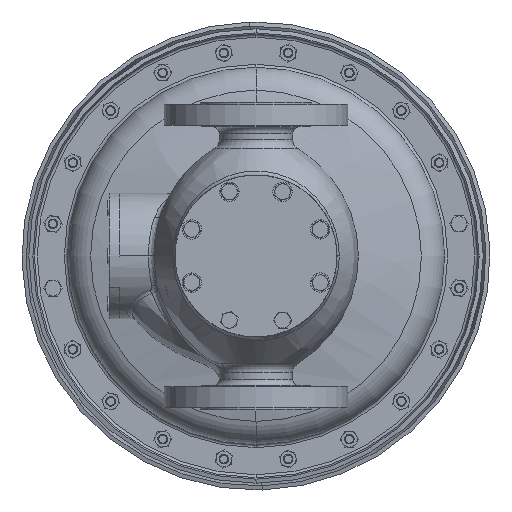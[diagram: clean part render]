
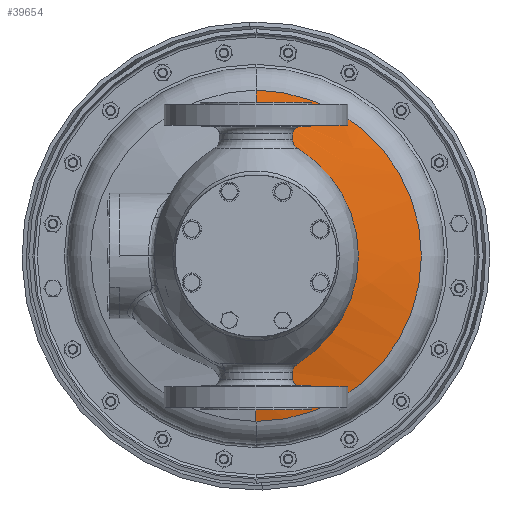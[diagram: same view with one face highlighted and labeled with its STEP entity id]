
A CAD part, front view. The second image highlights one B-rep face of the part: STEP entity #39654.
In plain terms, the highlighted spherical face has radius 553.5 mm.
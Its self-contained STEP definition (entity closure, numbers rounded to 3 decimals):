
#2181=CARTESIAN_POINT('',(0.,157.524,0.));
#2182=DIRECTION('',(0.,1.,0.));
#2183=DIRECTION('',(0.,0.,1.));
#2184=AXIS2_PLACEMENT_3D('',#2181,#2182,#2183);
#2768=CARTESIAN_POINT('',(0.,163.501,106.45));
#2769=CARTESIAN_POINT('',(0.379,163.501,106.45));
#2770=CARTESIAN_POINT('',(1.139,163.511,106.495));
#2771=CARTESIAN_POINT('',(2.262,163.555,106.698));
#2772=CARTESIAN_POINT('',(3.355,163.626,107.034));
#2773=CARTESIAN_POINT('',(4.402,163.726,107.499));
#2774=CARTESIAN_POINT('',(5.389,163.851,108.088));
#2775=CARTESIAN_POINT('',(6.301,164.002,108.793));
#2776=CARTESIAN_POINT('',(7.124,164.176,109.605));
#2777=CARTESIAN_POINT('',(7.845,164.37,110.513));
#2778=CARTESIAN_POINT('',(8.453,164.582,111.505));
#2779=CARTESIAN_POINT('',(8.937,164.809,112.567));
#2780=CARTESIAN_POINT('',(9.289,165.048,113.682));
#2781=CARTESIAN_POINT('',(9.503,165.295,114.833));
#2782=CARTESIAN_POINT('',(9.574,165.545,116.003));
#2783=CARTESIAN_POINT('',(9.502,165.796,117.173));
#2784=CARTESIAN_POINT('',(9.288,166.043,118.324));
#2785=CARTESIAN_POINT('',(8.935,166.283,119.439));
#2786=CARTESIAN_POINT('',(8.45,166.51,120.5));
#2787=CARTESIAN_POINT('',(7.842,166.723,121.492));
#2788=CARTESIAN_POINT('',(7.12,166.919,122.4));
#2789=CARTESIAN_POINT('',(6.296,167.093,123.211));
#2790=CARTESIAN_POINT('',(5.384,167.244,123.916));
#2791=CARTESIAN_POINT('',(4.397,167.371,124.503));
#2792=CARTESIAN_POINT('',(3.349,167.471,124.968));
#2793=CARTESIAN_POINT('',(2.256,167.543,125.303));
#2794=CARTESIAN_POINT('',(1.136,167.586,125.505));
#2795=CARTESIAN_POINT('',(0.378,167.596,125.55));
#2796=CARTESIAN_POINT('',(0.,167.596,125.55));
#2830=CARTESIAN_POINT('',(0.,163.501,106.45));
#2836=CARTESIAN_POINT('',(0.,706.669,0.));
#2837=DIRECTION('',(1.,0.,0.));
#2838=DIRECTION('',(0.,-0.981,0.192));
#2839=AXIS2_PLACEMENT_3D('',#2836,#2837,#2838);
#2841=CARTESIAN_POINT('',(0.,706.669,0.));
#2842=DIRECTION('',(1.,0.,0.));
#2843=DIRECTION('',(0.,-0.969,0.247));
#2844=AXIS2_PLACEMENT_3D('',#2841,#2842,#2843);
#2846=CARTESIAN_POINT('',(0.,170.341,0.));
#2847=DIRECTION('',(0.,-1.,0.));
#2848=DIRECTION('',(0.,0.,-1.));
#2849=AXIS2_PLACEMENT_3D('',#2846,#2847,#2848);
#2851=CARTESIAN_POINT('',(0.,706.669,0.));
#2852=DIRECTION('',(1.,0.,0.));
#2853=DIRECTION('',(0.,-0.992,-0.125));
#2854=AXIS2_PLACEMENT_3D('',#2851,#2852,#2853);
#30591=CARTESIAN_POINT('',(0.,157.524,
69.301));
#30593=VERTEX_POINT('',#30591);
#30594=CARTESIAN_POINT('',(0.,157.524,-69.301));
#30596=VERTEX_POINT('',#30594);
#30598=CARTESIAN_POINT('',(0.,170.341,136.803));
#30599=CARTESIAN_POINT('',(0.,167.596,125.55));
#30600=VERTEX_POINT('',#30598);
#30601=VERTEX_POINT('',#30599);
#30602=VERTEX_POINT('',#2830);
#30603=CARTESIAN_POINT('',(0.,170.341,
-136.803));
#30604=VERTEX_POINT('',#30603);
#39641=CARTESIAN_POINT('',(0.,706.669,0.));
#39642=DIRECTION('',(0.,-0.974,0.227));
#39643=DIRECTION('',(0.,0.227,0.974));
#39644=AXIS2_PLACEMENT_3D('',#39641,#39642,#39643);
#39645=SPHERICAL_SURFACE('',#39644,553.5);
#39646=ORIENTED_EDGE('',*,*,#38931,.F.);
#39647=ORIENTED_EDGE('',*,*,#38962,.F.);
#39648=ORIENTED_EDGE('',*,*,#39622,.T.);
#39649=ORIENTED_EDGE('',*,*,#38958,.F.);
#39650=ORIENTED_EDGE('',*,*,#38994,.F.);
#39651=ORIENTED_EDGE('',*,*,#38965,.F.);
#39652=EDGE_LOOP('',(#39646,#39647,#39648,#39649,#39650,#39651));
#39653=FACE_OUTER_BOUND('',#39652,.F.);
#39654=ADVANCED_FACE('',(#39653),#39645,.T.);
#2185=CIRCLE('',#2184,69.301);
#2797=B_SPLINE_CURVE_WITH_KNOTS('',3,(#2768,#2769,#2770,#2771,#2772,#2773,#2774,
#2775,#2776,#2777,#2778,#2779,#2780,#2781,#2782,#2783,#2784,#2785,#2786,#2787,
#2788,#2789,#2790,#2791,#2792,#2793,#2794,#2795,#2796),.UNSPECIFIED.,.F.,.F.,(4,
1,1,1,1,1,1,1,1,1,1,1,1,1,1,1,1,1,1,1,1,1,1,1,1,1,4),(0.,0.038,
0.077,0.115,0.154,0.192,
0.231,0.269,0.308,0.346,
0.385,0.423,0.462,0.5,0.538,
0.577,0.615,0.654,0.692,
0.731,0.769,0.808,0.846,
0.885,0.923,0.962,1.),.UNSPECIFIED.);
#2840=CIRCLE('',#2839,553.5);
#2845=CIRCLE('',#2844,553.5);
#2850=CIRCLE('',#2849,136.803);
#2855=CIRCLE('',#2854,553.5);
#38931=EDGE_CURVE('',#30593,#30596,#2185,.T.);
#38958=EDGE_CURVE('',#30600,#30601,#2845,.T.);
#38962=EDGE_CURVE('',#30602,#30593,#2840,.T.);
#38965=EDGE_CURVE('',#30596,#30604,#2855,.T.);
#38994=EDGE_CURVE('',#30604,#30600,#2850,.T.);
#39622=EDGE_CURVE('',#30602,#30601,#2797,.T.);
